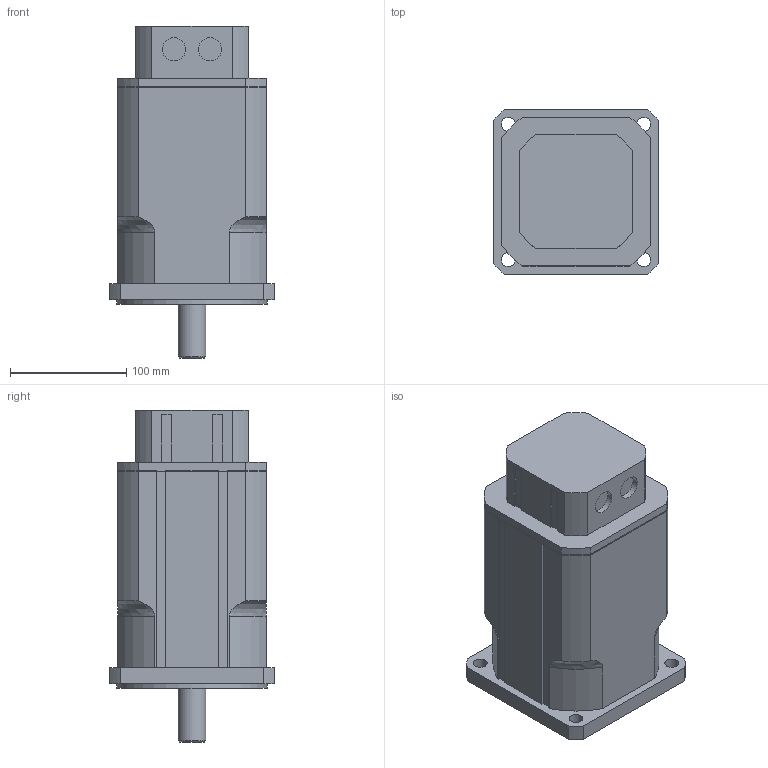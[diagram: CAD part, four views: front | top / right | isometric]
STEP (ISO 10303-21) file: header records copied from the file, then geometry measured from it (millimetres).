
FILE_DESCRIPTION(/* description */ ('Alibre Inc.'),/* implementation_level */ '2;1');
FILE_NAME(/* name */ 'export2',/* time_stamp */ '2013-07-16T10:28:50+02:00',/* author */ (''),/* organization */ (''),/* preprocessor_version */ 'ST-DEVELOPER v12',/* originating_system */ 'Alibre',/* authorisation */ '');
FILE_SCHEMA (('ALIBRE_SCHEMA','CONFIG_CONTROL_DESIGN'));
Length unit declared in the file: millimetre
Products named in the file (5): ID_1
Bounding box: 142 x 142 x 286 mm (x, y, z)
Volume: 3493962.9 mm3; surface area: 218073.8 mm2
Topology: 4 solids, 4 shells, 155 faces, 403 edges, 265 vertices
Faces by surface type: plane 85, cylinder 58, cone 7, torus 4, bspline 1
Full cylindrical faces by diameter (mm): 2.7 x4, 6.647 x1, 12 x4, 20 x5, 22 x2, 24 x2, 130 x1
Entity records: 19125 total; most frequent: CARTESIAN_POINT 4246, ORIENTED_EDGE 2364, DIRECTION 2340, EDGE_CURVE 1182, AXIS2_PLACEMENT_3D 887, VECTOR 844, VERTEX_POINT 826, LINE 806
